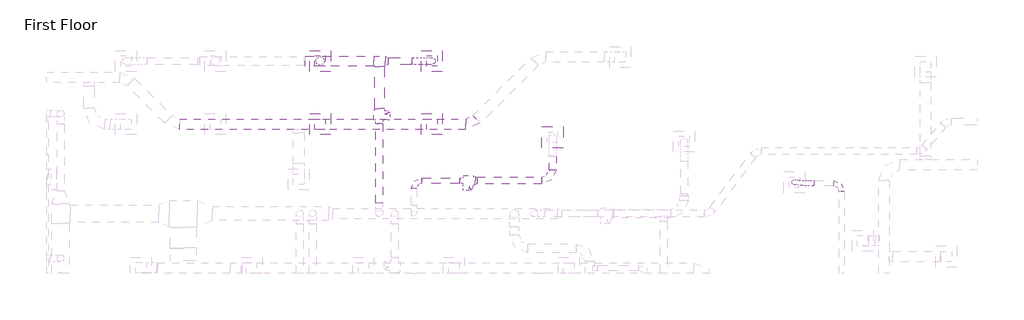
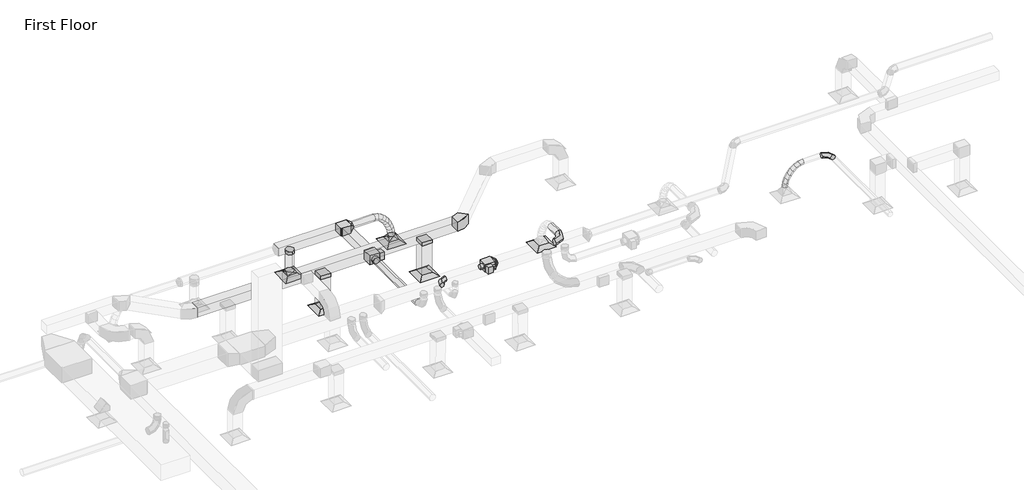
# One storey, part 25 of 61: 13 duct segments, 12 duct fittings, 5 air terminals, 2 proxies.
"""IFC4 building model written with IfcOpenShell, lengths in millimetres."""

from ifc_helpers import new_model, si_unit, point, frame, frame_2d, origin, place, context, project, spatial, polyline, circle_curve, ellipse_curve, trimmed, segment, composite_curve, outline, extrude, transform, mapped, element, save
from ifc_brep_helpers import plane_surface, cylinder_surface, advanced_brep
from components import m_exhaust_grill_er_600_x_600_face_300_x_300_connection_ff221211, m_vav_unit_single_duct_150_mm_ffdab17b, m_vav_unit_single_duct_200_mm_f9143229, m_rectangular_elbow_radius_1_5_w_5bed5c13, m_rectangular_takeoff_standard_c00386d1, m_rectangular_tee_standard_b73c3011, m_rectangular_to_round_transition_angle_45_degree_60daae35, m_rectangular_to_round_transition_angle_45_degree_1b7ae117, m_rectangular_to_round_transition_angle_45_degree_c30f01b8, m_rectangular_to_round_transition_angle_45_degree_fab4045a, m_round_elbow_1_5_d_2e586196, m_round_elbow_1_5_d_b7bc3624, m_round_takeoff_standard_3c6c0435

model = new_model("IFC4")

# Units and contexts
model_context = context("Model", 3, world=origin())
ifc_project = project(units=[si_unit("LENGTHUNIT", "METRE", prefix="MILLI")], contexts=[model_context])

# Site, building, storey
site = spatial("IfcSite", under=ifc_project)
building = spatial("IfcBuilding", under=site)
storey = spatial("IfcBuildingStorey", under=building, Name="First Floor", Elevation=0.0)

# Air terminals
placement = place(None, origin())
m_exhaust_grill_er_600_x_600_face_300_x_300_connection_shape = m_exhaust_grill_er_600_x_600_face_300_x_300_connection_ff221211(model_context)
element("IfcAirTerminal", 1, ObjectType="M_Return Register : RR-600 x 600 Face 300 x 300 Connection", at=placement, inside=storey, context=model_context, shape_type="MappedRepresentation", body=[
    mapped(m_exhaust_grill_er_600_x_600_face_300_x_300_connection_shape, transform((-31691.200277, 25626.8949438, 2680.0), x_axis=(1.0, 0.0, 0.0), y_axis=(0.0, 1.0, 0.0), z_axis=(0.0, 0.0, 1.0))),
])
element("IfcAirTerminal", 2, ObjectType="M_Return Register : RR-600 x 600 Face 300 x 300 Connection", at=placement, inside=storey, context=model_context, shape_type="MappedRepresentation", body=[
    mapped(m_exhaust_grill_er_600_x_600_face_300_x_300_connection_shape, transform((-28520.4493854, 25626.8949438, 2680.0), x_axis=(1.0, 0.0, 0.0), y_axis=(0.0, 1.0, 0.0), z_axis=(0.0, 0.0, 1.0))),
])
element("IfcAirTerminal", 3, ObjectType="M_Supply Diffuser : SD-600 x 600 Face 300 x 300 Connection", at=placement, inside=storey, context=model_context, shape_type="MappedRepresentation", body=[
    mapped(m_exhaust_grill_er_600_x_600_face_300_x_300_connection_shape, transform((-31691.200277, 27420.2137368, 2680.0), x_axis=(1.0, 0.0, 0.0), y_axis=(0.0, 1.0, 0.0), z_axis=(0.0, 0.0, 1.0))),
])
element("IfcAirTerminal", 4, ObjectType="M_Supply Diffuser : SD-600 x 600 Face 300 x 300 Connection", at=placement, inside=storey, context=model_context, shape_type="MappedRepresentation", body=[
    mapped(m_exhaust_grill_er_600_x_600_face_300_x_300_connection_shape, transform((-28520.4493854, 27420.2137368, 2680.0), x_axis=(1.0, 0.0, 0.0), y_axis=(0.0, 1.0, 0.0), z_axis=(0.0, 0.0, 1.0))),
])
element("IfcAirTerminal", 5, ObjectType="M_Supply Diffuser : SD-600 x 600 Face 300 x 300 Connection", at=placement, inside=storey, context=model_context, shape_type="MappedRepresentation", body=[
    mapped(m_exhaust_grill_er_600_x_600_face_300_x_300_connection_shape, transform((-25088.7510088, 25251.4077861, 2680.0), x_axis=(1.0, 0.0, 0.0), y_axis=(0.0, 1.0, 0.0), z_axis=(0.0, 0.0, 1.0))),
])

# Proxies
m_vav_unit_single_duct_150_mm_shape = m_vav_unit_single_duct_150_mm_ffdab17b(model_context)
element("IfcBuildingElementProxy", 6, Name="M_VAV Unit - Single Duct : 150 mm", ObjectType="M_VAV Unit - Single Duct : 150 mm", at=placement, inside=storey, context=model_context, shape_type="MappedRepresentation", body=[
    mapped(m_vav_unit_single_duct_150_mm_shape, transform((-27627.0643484, 24016.391812, 3500.0), x_axis=(1.0, 0.0, 0.0), y_axis=(0.0, 1.0, 0.0), z_axis=(0.0, 0.0, 1.0))),
])
m_vav_unit_single_duct_200_mm_shape = m_vav_unit_single_duct_200_mm_f9143229(model_context)
element("IfcBuildingElementProxy", 7, Name="M_VAV Unit - Single Duct : 200 mm", ObjectType="M_VAV Unit - Single Duct : 200 mm", at=placement, inside=storey, context=model_context, shape_type="MappedRepresentation", body=[
    mapped(m_vav_unit_single_duct_200_mm_shape, transform((-30010.5691748, 25744.7092186, 3500.05), x_axis=(0.0, 1.0000000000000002, 0.0), y_axis=(-1.0000000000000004, 0.0, 0.0), z_axis=(0.0, 0.0, 1.0000000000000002))),
])

# Duct fittings
m_rectangular_elbow_radius_1_5_w_shape = m_rectangular_elbow_radius_1_5_w_5bed5c13(model_context)
element("IfcDuctFitting", 8, ObjectType="M_Rectangular Elbow - Radius : 1.5 W", at=placement, inside=storey, context=model_context, shape_type="MappedRepresentation", body=[
    mapped(m_rectangular_elbow_radius_1_5_w_shape, transform((-27375.1238283, 25626.8949438, 4000.0), x_axis=(1.0, 0.0, 0.0), y_axis=(0.0, 1.0, 0.0), z_axis=(0.0, 0.0, 1.0))),
])
m_rectangular_takeoff_standard_shape = m_rectangular_takeoff_standard_c00386d1(model_context)
element("IfcDuctFitting", 9, ObjectType="M_Rectangular Takeoff : Standard", at=placement, inside=storey, context=model_context, shape_type="MappedRepresentation", body=[
    mapped(m_rectangular_takeoff_standard_shape, transform((-31691.200277, 25626.8949438, 3850.0), x_axis=(0.0, 0.0, -1.0), y_axis=(0.0, 1.0, 0.0), z_axis=(1.0, 0.0, 0.0))),
])
element("IfcDuctFitting", 10, ObjectType="M_Rectangular Takeoff : Standard", at=placement, inside=storey, context=model_context, shape_type="MappedRepresentation", body=[
    mapped(m_rectangular_takeoff_standard_shape, transform((-28520.4493854, 25626.8949438, 3850.0), x_axis=(0.0, 0.0, -1.0), y_axis=(0.0, 1.0, 0.0), z_axis=(1.0, 0.0, 0.0))),
])
m_rectangular_tee_standard_shape = m_rectangular_tee_standard_b73c3011(model_context)
element("IfcDuctFitting", 11, ObjectType="M_Rectangular Tee : Standard", at=placement, inside=storey, context=model_context, shape_type="MappedRepresentation", body=[
    mapped(m_rectangular_tee_standard_shape, transform((-30010.5691748, 27420.2137368, 3644.1), x_axis=(1.0, 0.0, 0.0), y_axis=(0.0, 1.0, 0.0), z_axis=(0.0, 0.0, 1.0))),
])
m_rectangular_to_round_transition_angle_45_degree_shape = m_rectangular_to_round_transition_angle_45_degree_60daae35(model_context)
element("IfcDuctFitting", 12, ObjectType="M_Rectangular to Round Transition - Angle : 45 Degree", at=placement, inside=storey, context=model_context, shape_type="MappedRepresentation", body=[
    mapped(m_rectangular_to_round_transition_angle_45_degree_shape, transform((-28520.4493854, 27420.2137368, 2781.6), x_axis=(0.0, 0.0, 1.0), y_axis=(1.0, 0.0, 0.0), z_axis=(0.0, 1.0, 0.0))),
])
m_rectangular_to_round_transition_angle_45_degree_2_shape = m_rectangular_to_round_transition_angle_45_degree_1b7ae117(model_context)
element("IfcDuctFitting", 13, ObjectType="M_Rectangular to Round Transition - Angle : 45 Degree", at=placement, inside=storey, context=model_context, shape_type="MappedRepresentation", body=[
    mapped(m_rectangular_to_round_transition_angle_45_degree_2_shape, transform((-27284.2643484, 24016.391812, 3619.05), x_axis=(1.0, 0.0, 0.0), y_axis=(0.0, 1.0, 0.0), z_axis=(0.0, 0.0, 1.0))),
])
m_rectangular_to_round_transition_angle_45_degree_3_shape = m_rectangular_to_round_transition_angle_45_degree_c30f01b8(model_context)
element("IfcDuctFitting", 14, ObjectType="M_Rectangular to Round Transition - Angle : 45 Degree", at=placement, inside=storey, context=model_context, shape_type="MappedRepresentation", body=[
    mapped(m_rectangular_to_round_transition_angle_45_degree_3_shape, transform((-31691.200277, 27420.2137368, 2781.6), x_axis=(0.0, 0.0, 1.0), y_axis=(0.0, -1.0, 0.0), z_axis=(1.0, 0.0, 0.0))),
])
m_rectangular_to_round_transition_angle_45_degree_4_shape = m_rectangular_to_round_transition_angle_45_degree_fab4045a(model_context)
element("IfcDuctFitting", 15, ObjectType="M_Rectangular to Round Transition - Angle : 45 Degree", at=placement, inside=storey, context=model_context, shape_type="MappedRepresentation", body=[
    mapped(m_rectangular_to_round_transition_angle_45_degree_4_shape, transform((-29848.0691748, 27420.2137368, 3644.1), x_axis=(1.0, 0.0, 0.0), y_axis=(0.0, 1.0, 0.0), z_axis=(0.0, 0.0, 1.0))),
])
m_round_elbow_1_5_d_shape = m_round_elbow_1_5_d_2e586196(model_context)
element("IfcDuctFitting", 16, ObjectType="M_Round Elbow : 1.5 D", at=placement, inside=storey, context=model_context, shape_type="MappedRepresentation", body=[
    mapped(m_round_elbow_1_5_d_shape, transform((-16867.9125198, 23941.391812, 3619.1), x_axis=(0.0, 1.0, 0.0), y_axis=(-1.0, 0.0, 0.0), z_axis=(0.0, 0.0, 1.0))),
])
element("IfcDuctFitting", 17, ObjectType="M_Round Elbow : 1.5 D", at=placement, inside=storey, context=model_context, shape_type="MappedRepresentation", body=[
    mapped(m_round_elbow_1_5_d_shape, transform((-29028.6643484, 24017.241812, 3609.5), x_axis=(-0.9999999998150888, 0.0, -1.923076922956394e-05), y_axis=(0.0, -1.0, 0.0), z_axis=(-1.923076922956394e-05, 0.0, 0.9999999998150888))),
])
m_round_elbow_1_5_d_2_shape = m_round_elbow_1_5_d_b7bc3624(model_context)
element("IfcDuctFitting", 18, ObjectType="M_Round Elbow : 1.5 D", at=placement, inside=storey, context=model_context, shape_type="MappedRepresentation", body=[
    mapped(m_round_elbow_1_5_d_2_shape, transform((-25088.7510088, 24016.391812, 3619.1), x_axis=(1.0, 0.0, 0.0), y_axis=(0.0, 1.0, 0.0), z_axis=(0.0, 0.0, 1.0))),
])
m_round_takeoff_standard_shape = m_round_takeoff_standard_3c6c0435(model_context)
element("IfcDuctFitting", 19, ObjectType="M_Round Takeoff : Standard", at=placement, inside=storey, context=model_context, shape_type="MappedRepresentation", body=[
    mapped(m_round_takeoff_standard_shape, transform((-31691.200277, 27420.2137368, 3519.1), x_axis=(0.0, 0.0, -1.0), y_axis=(0.0, 1.0, 0.0), z_axis=(1.0, 0.0, 0.0))),
])

# Duct segments
element("IfcDuctSegment", 20, ObjectType="Flex - Round", at=placement, inside=storey, context=model_context, shape_type="AdvancedBrep", body=[
    advanced_brep(
    [(-17669.0618998, 23866.4006196, 3619.1), (-17654.7669014, 23941.1903308, 3545.2613101), (-17666.7631397, 24016.3830043, 3619.1), (-17681.0581382, 23941.5932931, 3692.9386899), (-17790.1013636, 23868.2557754, 3597.5460912), (-17763.64079, 23942.8590265, 3525.8737667), (-17786.0185237, 24018.2108157, 3597.8637884), (-17812.4790973, 23943.6075647, 3669.5361129), (-18219.5903426, 23899.7385225, 2962.0459449), (-18290.0565527, 23978.4132131, 2971.7827969), (-18211.8269291, 24049.5323523, 2963.2860895), (-18141.360719, 23970.8576616, 2953.5492375), (-17904.5689173, 23873.0588916, 3538.0236843), (-17858.8648535, 23946.8546761, 3476.3578534), (-17897.9109492, 24022.9058782, 3539.6804319), (-17943.6150129, 23949.1100938, 3601.3462628), (-18007.2018094, 23879.5918853, 3449.1764013), (-17948.8744106, 23952.5841441, 3398.4383442), (-17999.3077544, 24029.3601901, 3451.9032051), (-18057.6351532, 23956.3679313, 3502.6412623), (-18094.0572428, 23886.6836696, 3339.1455079), (-18027.1913887, 23958.9787597, 3299.2242049), (-18085.7563234, 24036.4187537, 3342.3877389), (-18152.6221775, 23964.1236635, 3382.3090419), (-18161.1039365, 23893.1729908, 3215.9920559), (-18088.1155369, 23964.8754914, 3187.3168347), (-18152.8925239, 24042.916738, 3219.0698779), (-18225.8809235, 23971.2142374, 3247.745099), (-18204.2615617, 23897.9028395, 3087.8137884), (-18126.9129969, 23969.127489, 3072.0882702), (-18196.4012716, 24047.685068, 3089.8487758), (-18273.7498364, 23976.4604185, 3105.5742939)],
    [
        (0, 1, circle_curve(frame((-17667.9125198, 23941.391812, 3619.1), z_axis=(0.9844002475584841, -0.015087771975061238, 0.1752954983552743), x_axis=(-0.015325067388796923, -0.9998825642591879, 0.0)), 75.0)),
        (1, 2, circle_curve(frame((-17667.9125198, 23941.391812, 3619.1), z_axis=(0.9844002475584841, -0.015087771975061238, 0.1752954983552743), x_axis=(-0.015325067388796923, -0.9998825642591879, 0.0)), 75.0)),
        (2, 3, circle_curve(frame((-17667.9125198, 23941.391812, 3619.1), z_axis=(0.9844002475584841, -0.015087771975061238, 0.1752954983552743), x_axis=(-0.015325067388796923, -0.9998825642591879, 0.0)), 75.0)),
        (3, 0, circle_curve(frame((-17667.9125198, 23941.391812, 3619.1), z_axis=(0.9844002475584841, -0.015087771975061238, 0.1752954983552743), x_axis=(-0.015325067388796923, -0.9998825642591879, 0.0)), 75.0)),
        (0, 4),
        (4, 5, ellipse_curve(frame((-17788.0599437, 23943.2332956, 3597.7049398), z_axis=(0.9464133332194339, -0.026450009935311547, 0.3218729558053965), x_axis=(0.32295463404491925, 0.07303025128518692, -0.9435925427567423)), 75.8747239, 75.0)),
        (5, 1),
        (5, 6, ellipse_curve(frame((-17788.0599437, 23943.2332956, 3597.7049398), z_axis=(0.9464133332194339, -0.026450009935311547, 0.3218729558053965), x_axis=(0.32295463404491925, 0.07303025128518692, -0.9435925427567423)), 75.8747239, 75.0)),
        (6, 2),
        (6, 7, ellipse_curve(frame((-17788.0599437, 23943.2332956, 3597.7049398), z_axis=(0.9464133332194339, -0.026450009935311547, 0.3218729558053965), x_axis=(0.32295463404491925, 0.07303025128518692, -0.9435925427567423)), 75.8747239, 75.0)),
        (7, 3),
        (7, 4, ellipse_curve(frame((-17788.0599437, 23943.2332956, 3597.7049398), z_axis=(0.9464133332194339, -0.026450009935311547, 0.3218729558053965), x_axis=(0.32295463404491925, 0.07303025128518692, -0.9435925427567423)), 75.8747239, 75.0)),
        (8, 9, circle_curve(frame((-18215.7086358, 23974.6354374, 2962.6660172), z_axis=(-0.12097354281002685, 0.014487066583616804, -0.99255001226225), x_axis=(-0.05175608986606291, -0.9986255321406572, -0.008267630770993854)), 75.0)),
        (9, 10, circle_curve(frame((-18215.7086358, 23974.6354374, 2962.6660172), z_axis=(-0.12097354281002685, 0.014487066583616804, -0.99255001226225), x_axis=(-0.05175608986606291, -0.9986255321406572, -0.008267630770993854)), 75.0)),
        (10, 11, circle_curve(frame((-18215.7086358, 23974.6354374, 2962.6660172), z_axis=(-0.12097354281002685, 0.014487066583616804, -0.99255001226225), x_axis=(-0.05175608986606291, -0.9986255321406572, -0.008267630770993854)), 75.0)),
        (11, 8, circle_curve(frame((-18215.7086358, 23974.6354374, 2962.6660172), z_axis=(-0.12097354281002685, 0.014487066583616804, -0.99255001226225), x_axis=(-0.05175608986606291, -0.9986255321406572, -0.008267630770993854)), 75.0)),
        (4, 12),
        (12, 13, ellipse_curve(frame((-17901.2399332, 23947.9823849, 3538.8520581), z_axis=(0.8265477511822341, -0.04293006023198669, 0.5612270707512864), x_axis=(0.5627896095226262, 0.04654089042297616, -0.8252889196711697)), 75.5165075, 75.0)),
        (13, 5),
        (13, 14, ellipse_curve(frame((-17901.2399332, 23947.9823849, 3538.8520581), z_axis=(0.8265477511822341, -0.04293006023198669, 0.5612270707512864), x_axis=(0.5627896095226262, 0.04654089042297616, -0.8252889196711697)), 75.5165075, 75.0)),
        (14, 6),
        (14, 15, ellipse_curve(frame((-17901.2399332, 23947.9823849, 3538.8520581), z_axis=(0.8265477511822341, -0.04293006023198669, 0.5612270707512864), x_axis=(0.5627896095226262, 0.04654089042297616, -0.8252889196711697)), 75.5165075, 75.0)),
        (15, 7),
        (15, 12, ellipse_curve(frame((-17901.2399332, 23947.9823849, 3538.8520581), z_axis=(0.8265477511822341, -0.04293006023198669, 0.5612270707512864), x_axis=(0.5627896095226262, 0.04654089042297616, -0.8252889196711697)), 75.5165075, 75.0)),
        (12, 16),
        (16, 17, ellipse_curve(frame((-18003.2547819, 23954.4760377, 3450.5398032), z_axis=(0.6900674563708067, -0.04951859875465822, 0.722049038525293), x_axis=(0.7233205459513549, 0.013021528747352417, -0.6903896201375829)), 75.3355178, 75.0)),
        (17, 13),
        (17, 18, ellipse_curve(frame((-18003.2547819, 23954.4760377, 3450.5398032), z_axis=(0.6900674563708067, -0.04951859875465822, 0.722049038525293), x_axis=(0.7233205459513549, 0.013021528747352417, -0.6903896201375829)), 75.3355178, 75.0)),
        (18, 14),
        (18, 19, ellipse_curve(frame((-18003.2547819, 23954.4760377, 3450.5398032), z_axis=(0.6900674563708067, -0.04951859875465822, 0.722049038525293), x_axis=(0.7233205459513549, 0.013021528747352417, -0.6903896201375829)), 75.3355178, 75.0)),
        (19, 15),
        (19, 16, ellipse_curve(frame((-18003.2547819, 23954.4760377, 3450.5398032), z_axis=(0.6900674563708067, -0.04951859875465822, 0.722049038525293), x_axis=(0.7233205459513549, 0.013021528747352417, -0.6903896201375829)), 75.3355178, 75.0)),
        (16, 20),
        (20, 21, ellipse_curve(frame((-18089.9067831, 23961.5512116, 3340.7666234), z_axis=(0.5501965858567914, -0.04855197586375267, 0.8336224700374), x_axis=(0.8336581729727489, -0.025370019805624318, -0.5516977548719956)), 75.2702725, 75.0)),
        (21, 17),
        (21, 22, ellipse_curve(frame((-18089.9067831, 23961.5512116, 3340.7666234), z_axis=(0.5501965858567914, -0.04855197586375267, 0.8336224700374), x_axis=(0.8336581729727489, -0.025370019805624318, -0.5516977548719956)), 75.2702725, 75.0)),
        (22, 18),
        (22, 23, ellipse_curve(frame((-18089.9067831, 23961.5512116, 3340.7666234), z_axis=(0.5501965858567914, -0.04855197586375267, 0.8336224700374), x_axis=(0.8336581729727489, -0.025370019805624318, -0.5516977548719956)), 75.2702725, 75.0)),
        (23, 19),
        (23, 20, ellipse_curve(frame((-18089.9067831, 23961.5512116, 3340.7666234), z_axis=(0.5501965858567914, -0.04855197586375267, 0.8336224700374), x_axis=(0.8336581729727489, -0.025370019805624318, -0.5516977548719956)), 75.2702725, 75.0)),
        (20, 24),
        (24, 25, ellipse_curve(frame((-18156.9982302, 23968.0448644, 3217.5309669), z_axis=(0.3997821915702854, -0.04074394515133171, 0.9157041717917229), x_axis=(0.9134701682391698, -0.06491038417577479, -0.401695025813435)), 75.2847041, 75.0)),
        (25, 21),
        (25, 26, ellipse_curve(frame((-18156.9982302, 23968.0448644, 3217.5309669), z_axis=(0.3997821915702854, -0.04074394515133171, 0.9157041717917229), x_axis=(0.9134701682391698, -0.06491038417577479, -0.401695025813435)), 75.2847041, 75.0)),
        (26, 22),
        (26, 27, ellipse_curve(frame((-18156.9982302, 23968.0448644, 3217.5309669), z_axis=(0.3997821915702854, -0.04074394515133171, 0.9157041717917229), x_axis=(0.9134701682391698, -0.06491038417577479, -0.401695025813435)), 75.2847041, 75.0)),
        (27, 23),
        (27, 24, ellipse_curve(frame((-18156.9982302, 23968.0448644, 3217.5309669), z_axis=(0.3997821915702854, -0.04074394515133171, 0.9157041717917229), x_axis=(0.9134701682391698, -0.06491038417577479, -0.401695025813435)), 75.2847041, 75.0)),
        (24, 28),
        (28, 29, ellipse_curve(frame((-18200.3314166, 23972.7939538, 3088.8312821), z_axis=(0.22109252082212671, -0.024848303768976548, 0.9749362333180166), x_axis=(0.9697692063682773, -0.1002600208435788, -0.2224760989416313)), 75.3936078, 75.0)),
        (29, 25),
        (29, 30, ellipse_curve(frame((-18200.3314166, 23972.7939538, 3088.8312821), z_axis=(0.22109252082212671, -0.024848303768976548, 0.9749362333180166), x_axis=(0.9697692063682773, -0.1002600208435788, -0.2224760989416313)), 75.3936078, 75.0)),
        (30, 26),
        (30, 31, ellipse_curve(frame((-18200.3314166, 23972.7939538, 3088.8312821), z_axis=(0.22109252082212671, -0.024848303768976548, 0.9749362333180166), x_axis=(0.9697692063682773, -0.1002600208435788, -0.2224760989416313)), 75.3936078, 75.0)),
        (31, 27),
        (31, 28, ellipse_curve(frame((-18200.3314166, 23972.7939538, 3088.8312821), z_axis=(0.22109252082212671, -0.024848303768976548, 0.9749362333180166), x_axis=(0.9697692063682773, -0.1002600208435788, -0.2224760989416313)), 75.3936078, 75.0)),
        (28, 8),
        (11, 29),
        (10, 30),
        (9, 31),
    ],
    [
        plane_surface(frame((-17667.9125198, 24016.1155411, 3625.5315091), z_axis=(0.9844002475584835, -0.015087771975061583, 0.1752954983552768), x_axis=(0.1759436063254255, 0.08441572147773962, -0.9807740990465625))),
        cylinder_surface(frame((-17667.9125198, 23941.391812, 3619.1), z_axis=(0.9844002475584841, -0.015087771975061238, 0.1752954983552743), x_axis=(-0.015325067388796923, -0.9998825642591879, 0.0)), 75.0),
        plane_surface(frame((-18215.7086358, 24049.6274497, 2963.760586), z_axis=(-0.12097354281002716, 0.014487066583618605, -0.9925500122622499), x_axis=(0.9926557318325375, 0.0017655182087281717, -0.12096065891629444))),
        cylinder_surface(frame((-17788.0599437, 23943.2332956, 3597.7049398), z_axis=(0.886604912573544, -0.0372023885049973, 0.46102897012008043), x_axis=(-0.03793120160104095, -0.9992507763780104, -0.007688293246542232)), 75.0),
        cylinder_surface(frame((-17901.2399332, 23947.9823849, 3538.8520581), z_axis=(0.755183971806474, -0.04807047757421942, 0.6537479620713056), x_axis=(-0.04988484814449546, -0.9986299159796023, -0.015804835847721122)), 75.0),
        cylinder_surface(frame((-18003.2547819, 23954.4760377, 3450.5398032), z_axis=(0.6188043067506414, -0.05052564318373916, 0.7839186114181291), x_axis=(-0.05487400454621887, -0.9982718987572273, -0.0210252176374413)), 75.0),
        cylinder_surface(frame((-18089.9067831, 23961.5512116, 3340.7666234), z_axis=(0.4776376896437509, -0.04622963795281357, 0.8773397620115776), x_axis=(-0.055698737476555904, -0.998199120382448, -0.022274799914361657)), 75.0),
        cylinder_surface(frame((-18156.9982302, 23968.0448644, 3217.5309669), z_axis=(0.3189029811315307, -0.03495008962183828, 0.9471427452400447), x_axis=(-0.05410446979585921, -0.9983616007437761, -0.018623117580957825)), 75.0),
        cylinder_surface(frame((-18200.3314166, 23972.7939538, 3088.8312821), z_axis=(0.12097354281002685, -0.014487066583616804, 0.99255001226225), x_axis=(-0.05175608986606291, -0.9986255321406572, -0.008267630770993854)), 75.0),
    ],
    [
        (0, [[1, 2, 3, 4]]),
        (1, [[-1, 5, 6, 7]]),
        (1, [[-2, -7, 8, 9]]),
        (1, [[-3, -9, 10, 11]]),
        (1, [[-4, -11, 12, -5]]),
        (2, [[13, 14, 15, 16]]),
        (3, [[-6, 17, 18, 19]]),
        (3, [[-8, -19, 20, 21]]),
        (3, [[-10, -21, 22, 23]]),
        (3, [[-12, -23, 24, -17]]),
        (4, [[-18, 25, 26, 27]]),
        (4, [[-20, -27, 28, 29]]),
        (4, [[-22, -29, 30, 31]]),
        (4, [[-24, -31, 32, -25]]),
        (5, [[-26, 33, 34, 35]]),
        (5, [[-28, -35, 36, 37]]),
        (5, [[-30, -37, 38, 39]]),
        (5, [[-32, -39, 40, -33]]),
        (6, [[-34, 41, 42, 43]]),
        (6, [[-36, -43, 44, 45]]),
        (6, [[-38, -45, 46, 47]]),
        (6, [[-40, -47, 48, -41]]),
        (7, [[-42, 49, 50, 51]]),
        (7, [[-44, -51, 52, 53]]),
        (7, [[-46, -53, 54, 55]]),
        (7, [[-48, -55, 56, -49]]),
        (8, [[-50, 57, -16, 58]]),
        (8, [[-52, -58, -15, 59]]),
        (8, [[-54, -59, -14, 60]]),
        (8, [[-56, -60, -13, -57]]),
    ],
),
])
element("IfcDuctSegment", 21, ObjectType="Flex - Round", at=placement, inside=storey, context=model_context, shape_type="AdvancedBrep", body=[
    advanced_brep(
    [(-29069.4400538, 27520.2137368, 3644.1), (-29086.3983877, 27420.2137368, 3545.548415), (-29069.4400538, 27320.2137368, 3644.1), (-29052.4817199, 27420.2137368, 3742.651585), (-28957.5314991, 27520.2137368, 3624.8432561), (-28989.6495454, 27420.2137368, 3528.9002893), (-28957.5314991, 27320.2137368, 3624.8432561), (-28925.4134529, 27420.2137368, 3720.7862228), (-28520.4493854, 27520.2137368, 2902.3106781), (-28420.8634935, 27420.2137368, 2911.4018904), (-28520.4493854, 27320.2137368, 2902.3106781), (-28620.0352773, 27420.2137368, 2893.2194659), (-28853.8852403, 27520.2137368, 3571.453759), (-28910.3441585, 27420.2137368, 3488.0490828), (-28853.8852403, 27320.2137368, 3571.453759), (-28797.4263221, 27420.2137368, 3654.8584352), (-28760.553661, 27520.2137368, 3490.5026109), (-28833.0880104, 27420.2137368, 3421.0409604), (-28760.553661, 27320.2137368, 3490.5026109), (-28688.0193116, 27420.2137368, 3559.9642613), (-28679.5891449, 27520.2137368, 3388.5609138), (-28762.6232256, 27420.2137368, 3332.3193811), (-28679.5891449, 27320.2137368, 3388.5609138), (-28596.5550641, 27420.2137368, 3444.8024465), (-28613.0440756, 27520.2137368, 3272.1997699), (-28703.2393968, 27420.2137368, 3228.4804291), (-28613.0440756, 27320.2137368, 3272.1997699), (-28522.8487544, 27420.2137368, 3315.9191107), (-28562.9708368, 27520.2137368, 3147.9902813), (-28658.28118, 27420.2137368, 3116.9590405), (-28562.9708368, 27320.2137368, 3147.9902813), (-28467.6604936, 27420.2137368, 3179.021522), (-28531.4218122, 27520.2137368, 3022.50355), (-28630.3004841, 27420.2137368, 3005.6653917), (-28531.4218122, 27320.2137368, 3022.50355), (-28432.5431403, 27420.2137368, 3039.3417082)],
    [
        (0, 1, circle_curve(frame((-29069.4400538, 27420.2137368, 3644.1), z_axis=(-0.9855158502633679, 0.0, 0.16958333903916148), x_axis=(0.0, 1.0, 0.0)), 100.0)),
        (1, 2, circle_curve(frame((-29069.4400538, 27420.2137368, 3644.1), z_axis=(-0.9855158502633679, 0.0, 0.16958333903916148), x_axis=(0.0, 1.0, 0.0)), 100.0)),
        (2, 3, circle_curve(frame((-29069.4400538, 27420.2137368, 3644.1), z_axis=(-0.9855158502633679, 0.0, 0.16958333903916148), x_axis=(0.0, 1.0, 0.0)), 100.0)),
        (3, 0, circle_curve(frame((-29069.4400538, 27420.2137368, 3644.1), z_axis=(-0.9855158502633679, 0.0, 0.16958333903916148), x_axis=(0.0, 1.0, 0.0)), 100.0)),
        (0, 4),
        (4, 5, ellipse_curve(frame((-28957.5314991, 27420.2137368, 3624.8432561), z_axis=(-0.948276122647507, 0.0, 0.31744668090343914), x_axis=(-0.31744668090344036, 0.0, -0.9482761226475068)), 101.1761917, 100.0)),
        (5, 1),
        (5, 6, ellipse_curve(frame((-28957.5314991, 27420.2137368, 3624.8432561), z_axis=(-0.948276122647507, 0.0, 0.31744668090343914), x_axis=(-0.31744668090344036, 0.0, -0.9482761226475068)), 101.1761917, 100.0)),
        (6, 2),
        (6, 7, ellipse_curve(frame((-28957.5314991, 27420.2137368, 3624.8432561), z_axis=(-0.948276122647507, 0.0, 0.31744668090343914), x_axis=(-0.31744668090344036, 0.0, -0.9482761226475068)), 101.1761917, 100.0)),
        (7, 3),
        (7, 4, ellipse_curve(frame((-28957.5314991, 27420.2137368, 3624.8432561), z_axis=(-0.948276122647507, 0.0, 0.31744668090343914), x_axis=(-0.31744668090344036, 0.0, -0.9482761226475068)), 101.1761917, 100.0)),
        (8, 9, circle_curve(frame((-28520.4493854, 27420.2137368, 2902.3106781), z_axis=(0.09091212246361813, 0.0, -0.995858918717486), x_axis=(0.0, 1.0, 0.0)), 100.0)),
        (9, 10, circle_curve(frame((-28520.4493854, 27420.2137368, 2902.3106781), z_axis=(0.09091212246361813, 0.0, -0.995858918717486), x_axis=(0.0, 1.0, 0.0)), 100.0)),
        (10, 11, circle_curve(frame((-28520.4493854, 27420.2137368, 2902.3106781), z_axis=(0.09091212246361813, 0.0, -0.995858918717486), x_axis=(0.0, 1.0, 0.0)), 100.0)),
        (11, 8, circle_curve(frame((-28520.4493854, 27420.2137368, 2902.3106781), z_axis=(0.09091212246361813, 0.0, -0.995858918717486), x_axis=(0.0, 1.0, 0.0)), 100.0)),
        (4, 12),
        (12, 13, ellipse_curve(frame((-28853.8852403, 27420.2137368, 3571.453759), z_axis=(-0.8281077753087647, 0.0, 0.5605689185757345), x_axis=(-0.5605689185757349, 0.0, -0.8281077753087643)), 100.7171756, 100.0)),
        (13, 5),
        (13, 14, ellipse_curve(frame((-28853.8852403, 27420.2137368, 3571.453759), z_axis=(-0.8281077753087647, 0.0, 0.5605689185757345), x_axis=(-0.5605689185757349, 0.0, -0.8281077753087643)), 100.7171756, 100.0)),
        (14, 6),
        (14, 15, ellipse_curve(frame((-28853.8852403, 27420.2137368, 3571.453759), z_axis=(-0.8281077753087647, 0.0, 0.5605689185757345), x_axis=(-0.5605689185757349, 0.0, -0.8281077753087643)), 100.7171756, 100.0)),
        (15, 7),
        (15, 12, ellipse_curve(frame((-28853.8852403, 27420.2137368, 3571.453759), z_axis=(-0.8281077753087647, 0.0, 0.5605689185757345), x_axis=(-0.5605689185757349, 0.0, -0.8281077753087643)), 100.7171756, 100.0)),
        (12, 16),
        (16, 17, ellipse_curve(frame((-28760.553661, 27420.2137368, 3490.5026109), z_axis=(-0.6916435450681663, 0.0, 0.7222390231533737), x_axis=(-0.7222390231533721, 0.0, -0.6916435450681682)), 100.4298398, 100.0)),
        (17, 13),
        (17, 18, ellipse_curve(frame((-28760.553661, 27420.2137368, 3490.5026109), z_axis=(-0.6916435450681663, 0.0, 0.7222390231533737), x_axis=(-0.7222390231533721, 0.0, -0.6916435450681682)), 100.4298398, 100.0)),
        (18, 14),
        (18, 19, ellipse_curve(frame((-28760.553661, 27420.2137368, 3490.5026109), z_axis=(-0.6916435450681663, 0.0, 0.7222390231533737), x_axis=(-0.7222390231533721, 0.0, -0.6916435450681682)), 100.4298398, 100.0)),
        (19, 15),
        (19, 16, ellipse_curve(frame((-28760.553661, 27420.2137368, 3490.5026109), z_axis=(-0.6916435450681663, 0.0, 0.7222390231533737), x_axis=(-0.7222390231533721, 0.0, -0.6916435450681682)), 100.4298398, 100.0)),
        (16, 20),
        (20, 21, ellipse_curve(frame((-28679.5891449, 27420.2137368, 3388.5609138), z_axis=(-0.5607978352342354, 0.0, 0.8279527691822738), x_axis=(-0.8279527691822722, 0.0, -0.5607978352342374)), 100.2884269, 100.0)),
        (21, 17),
        (21, 22, ellipse_curve(frame((-28679.5891449, 27420.2137368, 3388.5609138), z_axis=(-0.5607978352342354, 0.0, 0.8279527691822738), x_axis=(-0.8279527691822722, 0.0, -0.5607978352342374)), 100.2884269, 100.0)),
        (22, 18),
        (22, 23, ellipse_curve(frame((-28679.5891449, 27420.2137368, 3388.5609138), z_axis=(-0.5607978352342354, 0.0, 0.8279527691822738), x_axis=(-0.8279527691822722, 0.0, -0.5607978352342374)), 100.2884269, 100.0)),
        (23, 19),
        (23, 20, ellipse_curve(frame((-28679.5891449, 27420.2137368, 3388.5609138), z_axis=(-0.5607978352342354, 0.0, 0.8279527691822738), x_axis=(-0.8279527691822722, 0.0, -0.5607978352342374)), 100.2884269, 100.0)),
        (20, 24),
        (24, 25, ellipse_curve(frame((-28613.0440756, 27420.2137368, 3272.1997699), z_axis=(-0.4361787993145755, 0.0, 0.8998600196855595), x_axis=(-0.8998600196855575, 0.0, -0.4361787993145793)), 100.2326131, 100.0)),
        (25, 21),
        (25, 26, ellipse_curve(frame((-28613.0440756, 27420.2137368, 3272.1997699), z_axis=(-0.4361787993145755, 0.0, 0.8998600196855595), x_axis=(-0.8998600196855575, 0.0, -0.4361787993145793)), 100.2326131, 100.0)),
        (26, 22),
        (26, 27, ellipse_curve(frame((-28613.0440756, 27420.2137368, 3272.1997699), z_axis=(-0.4361787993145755, 0.0, 0.8998600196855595), x_axis=(-0.8998600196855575, 0.0, -0.4361787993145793)), 100.2326131, 100.0)),
        (27, 23),
        (27, 24, ellipse_curve(frame((-28613.0440756, 27420.2137368, 3272.1997699), z_axis=(-0.4361787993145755, 0.0, 0.8998600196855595), x_axis=(-0.8998600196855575, 0.0, -0.4361787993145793)), 100.2326131, 100.0)),
        (24, 28),
        (28, 29, ellipse_curve(frame((-28562.9708368, 27420.2137368, 3147.9902813), z_axis=(-0.309585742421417, 0.0, 0.9508715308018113), x_axis=(-0.9508715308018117, 0.0, -0.3095857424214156)), 100.2347216, 100.0)),
        (29, 25),
        (29, 30, ellipse_curve(frame((-28562.9708368, 27420.2137368, 3147.9902813), z_axis=(-0.309585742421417, 0.0, 0.9508715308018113), x_axis=(-0.9508715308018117, 0.0, -0.3095857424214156)), 100.2347216, 100.0)),
        (30, 26),
        (30, 31, ellipse_curve(frame((-28562.9708368, 27420.2137368, 3147.9902813), z_axis=(-0.309585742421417, 0.0, 0.9508715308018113), x_axis=(-0.9508715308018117, 0.0, -0.3095857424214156)), 100.2347216, 100.0)),
        (31, 27),
        (31, 28, ellipse_curve(frame((-28562.9708368, 27420.2137368, 3147.9902813), z_axis=(-0.309585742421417, 0.0, 0.9508715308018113), x_axis=(-0.9508715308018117, 0.0, -0.3095857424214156)), 100.2347216, 100.0)),
        (28, 32),
        (32, 33, ellipse_curve(frame((-28531.4218122, 27420.2137368, 3022.50355), z_axis=(-0.16787439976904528, 0.0, 0.9858083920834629), x_axis=(-0.9858083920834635, 0.0, -0.16787439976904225)), 100.3021203, 100.0)),
        (33, 29),
        (33, 34, ellipse_curve(frame((-28531.4218122, 27420.2137368, 3022.50355), z_axis=(-0.16787439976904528, 0.0, 0.9858083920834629), x_axis=(-0.9858083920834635, 0.0, -0.16787439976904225)), 100.3021203, 100.0)),
        (34, 30),
        (34, 35, ellipse_curve(frame((-28531.4218122, 27420.2137368, 3022.50355), z_axis=(-0.16787439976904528, 0.0, 0.9858083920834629), x_axis=(-0.9858083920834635, 0.0, -0.16787439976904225)), 100.3021203, 100.0)),
        (35, 31),
        (35, 32, ellipse_curve(frame((-28531.4218122, 27420.2137368, 3022.50355), z_axis=(-0.16787439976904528, 0.0, 0.9858083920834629), x_axis=(-0.9858083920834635, 0.0, -0.16787439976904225)), 100.3021203, 100.0)),
        (32, 8),
        (11, 33),
        (10, 34),
        (9, 35),
    ],
    [
        plane_surface(frame((-29069.4400538, 27520.2137368, 3644.1), z_axis=(-0.9855158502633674, 0.0, 0.16958333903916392), x_axis=(0.16958333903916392, 0.0, 0.9855158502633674))),
        cylinder_surface(frame((-29069.4400538, 27420.2137368, 3644.1), z_axis=(-0.9855158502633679, 0.0, 0.16958333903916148), x_axis=(0.0, 1.0, 0.0)), 100.0),
        plane_surface(frame((-28520.4493854, 27520.2137368, 2902.3106781), z_axis=(0.09091212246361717, 0.0, -0.995858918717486), x_axis=(0.995858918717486, 0.0, 0.09091212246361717))),
        cylinder_surface(frame((-28957.5314991, 27420.2137368, 3624.8432561), z_axis=(-0.8889886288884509, 0.0, 0.4579292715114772), x_axis=(0.0, 1.0, 0.0)), 100.0),
        cylinder_surface(frame((-28853.8852403, 27420.2137368, 3571.453759), z_axis=(-0.7554335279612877, 0.0, 0.6552252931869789), x_axis=(0.0, 1.0, 0.0)), 100.0),
        cylinder_surface(frame((-28760.553661, 27420.2137368, 3490.5026109), z_axis=(-0.6219330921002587, 0.0, 0.7830703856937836), x_axis=(0.0, 1.0, 0.0)), 100.0),
        cylinder_surface(frame((-28679.5891449, 27420.2137368, 3388.5609138), z_axis=(-0.49643689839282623, 0.0, 0.8680728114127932), x_axis=(0.0, 1.0, 0.0)), 100.0),
        cylinder_surface(frame((-28613.0440756, 27420.2137368, 3272.1997699), z_axis=(-0.37389619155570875, 0.0, 0.9274705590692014), x_axis=(0.0, 1.0, 0.0)), 100.0),
        cylinder_surface(frame((-28562.9708368, 27420.2137368, 3147.9902813), z_axis=(-0.24382536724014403, 0.0, 0.9698191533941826), x_axis=(0.0, 1.0, 0.0)), 100.0),
        cylinder_surface(frame((-28531.4218122, 27420.2137368, 3022.50355), z_axis=(-0.09091212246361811, 0.0, 0.9958589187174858), x_axis=(0.0, 1.0, 0.0)), 100.0),
    ],
    [
        (0, [[1, 2, 3, 4]]),
        (1, [[-1, 5, 6, 7]]),
        (1, [[-2, -7, 8, 9]]),
        (1, [[-3, -9, 10, 11]]),
        (1, [[-4, -11, 12, -5]]),
        (2, [[13, 14, 15, 16]]),
        (3, [[-6, 17, 18, 19]]),
        (3, [[-8, -19, 20, 21]]),
        (3, [[-10, -21, 22, 23]]),
        (3, [[-12, -23, 24, -17]]),
        (4, [[-18, 25, 26, 27]]),
        (4, [[-20, -27, 28, 29]]),
        (4, [[-22, -29, 30, 31]]),
        (4, [[-24, -31, 32, -25]]),
        (5, [[-26, 33, 34, 35]]),
        (5, [[-28, -35, 36, 37]]),
        (5, [[-30, -37, 38, 39]]),
        (5, [[-32, -39, 40, -33]]),
        (6, [[-34, 41, 42, 43]]),
        (6, [[-36, -43, 44, 45]]),
        (6, [[-38, -45, 46, 47]]),
        (6, [[-40, -47, 48, -41]]),
        (7, [[-42, 49, 50, 51]]),
        (7, [[-44, -51, 52, 53]]),
        (7, [[-46, -53, 54, 55]]),
        (7, [[-48, -55, 56, -49]]),
        (8, [[-50, 57, 58, 59]]),
        (8, [[-52, -59, 60, 61]]),
        (8, [[-54, -61, 62, 63]]),
        (8, [[-56, -63, 64, -57]]),
        (9, [[-58, 65, -16, 66]]),
        (9, [[-60, -66, -15, 67]]),
        (9, [[-62, -67, -14, 68]]),
        (9, [[-64, -68, -13, -65]]),
    ],
),
])
element("IfcDuctSegment", 22, ObjectType="Mitered Elbows / Taps", at=placement, inside=storey, context=model_context, shape_type="SweptSolid", body=[
    extrude(outline(polyline([(-29873.0691748, 26074.5092186), (-30148.0691748, 26074.5092186), (-30148.0691748, 27257.7137368), (-29873.0691748, 27257.7137368), (-29873.0691748, 26074.5092186)])), frame((0.0, 0.0, 3519.1), z_axis=(0.0, 0.0, 1.0), x_axis=(1.0, 0.0, 0.0)), (0.0, 0.0, 1.0), 250.0),
])
element("IfcDuctSegment", 23, ObjectType="Mitered Elbows / Taps", at=placement, inside=storey, context=model_context, shape_type="SweptSolid", body=[
    extrude(outline(polyline([(-30173.0691748, 27557.7137368), (-30173.0691748, 27282.7137368), (-32114.4400538, 27282.7137368), (-32114.4400538, 27557.7137368), (-30173.0691748, 27557.7137368)])), frame((0.0, 0.0, 3519.1), z_axis=(0.0, 0.0, 1.0), x_axis=(1.0, 0.0, 0.0)), (0.0, 0.0, 1.0), 250.0),
])
element("IfcDuctSegment", 24, ObjectType="Radius Elbows / Taps", at=placement, inside=storey, context=model_context, shape_type="SweptSolid", body=[
    extrude(outline(polyline([(-27561.5199313, 25776.8949438), (-27561.5199313, 25476.8949438), (-35688.7277252, 25476.8949438), (-35688.7277252, 25776.8949438), (-27561.5199313, 25776.8949438)])), frame((0.0, 0.0, 3850.0), z_axis=(0.0, 0.0, 1.0), x_axis=(1.0, 0.0, 0.0)), (0.0, 0.0, 1.0), 300.0),
])
element("IfcDuctSegment", 25, ObjectType="Radius Elbows / Taps", at=placement, inside=storey, context=model_context, shape_type="SweptSolid", body=[
    extrude(outline(polyline([(-31841.200277, 25476.8949438), (-31841.200277, 25776.8949438), (-31541.200277, 25776.8949438), (-31541.200277, 25476.8949438), (-31841.200277, 25476.8949438)])), frame((0.0, 0.0, 2781.6), z_axis=(0.0, 0.0, 1.0), x_axis=(1.0, 0.0, 0.0)), (0.0, 0.0, 1.0), 968.4),
])
element("IfcDuctSegment", 26, ObjectType="Radius Elbows / Taps", at=placement, inside=storey, context=model_context, shape_type="SweptSolid", body=[
    extrude(outline(polyline([(-28670.4493854, 25476.8949438), (-28670.4493854, 25776.8949438), (-28370.4493854, 25776.8949438), (-28370.4493854, 25476.8949438), (-28670.4493854, 25476.8949438)])), frame((0.0, 0.0, 2781.6), z_axis=(0.0, 0.0, 1.0), x_axis=(1.0, 0.0, 0.0)), (0.0, 0.0, 1.0), 968.4),
])
element("IfcDuctSegment", 27, ObjectType="Taps", at=placement, inside=storey, context=model_context, shape_type="SweptSolid", body=[
    extrude(outline(composite_curve([segment(trimmed(circle_curve(frame_2d((27420.2137368, 3644.1)), 100.0), [point((27320.2137368, 3644.1))], [point((27420.2137368, 3744.1))], False, "CARTESIAN"), True, "CONTINUOUS"), segment(trimmed(circle_curve(frame_2d((27420.2137368, 3644.1)), 100.0), [point((27420.2137368, 3744.1))], [point((27520.2137368, 3644.1))], False, "CARTESIAN"), True, "CONTINUOUS"), segment(trimmed(circle_curve(frame_2d((27420.2137368, 3644.1)), 100.0), [point((27520.2137368, 3644.1))], [point((27420.2137368, 3544.1))], False, "CARTESIAN"), True, "CONTINUOUS"), segment(trimmed(circle_curve(frame_2d((27420.2137368, 3644.1)), 100.0), [point((27420.2137368, 3544.1))], [point((27320.2137368, 3644.1))], False, "CARTESIAN"), True, "CONTINUOUS")], self_intersect=False)), frame((-29757.5361662, 0.0, 0.0), z_axis=(1.0, 0.0, 0.0), x_axis=(0.0, 1.0, 0.0)), (0.0, 0.0, 1.0), 688.0961124),
])
element("IfcDuctSegment", 28, ObjectType="Taps", at=placement, inside=storey, context=model_context, shape_type="SweptSolid", body=[
    extrude(outline(composite_curve([segment(trimmed(circle_curve(frame_2d((-31691.200277, 27420.2137368)), 125.0), [point((-31691.200277, 27545.2137368))], [point((-31566.200277, 27420.2137368))], False, "CARTESIAN"), True, "CONTINUOUS"), segment(trimmed(circle_curve(frame_2d((-31691.200277, 27420.2137368)), 125.0), [point((-31566.200277, 27420.2137368))], [point((-31691.200277, 27295.2137368))], False, "CARTESIAN"), True, "CONTINUOUS"), segment(trimmed(circle_curve(frame_2d((-31691.200277, 27420.2137368)), 125.0), [point((-31691.200277, 27295.2137368))], [point((-31816.200277, 27420.2137368))], False, "CARTESIAN"), True, "CONTINUOUS"), segment(trimmed(circle_curve(frame_2d((-31691.200277, 27420.2137368)), 125.0), [point((-31816.200277, 27420.2137368))], [point((-31691.200277, 27545.2137368))], False, "CARTESIAN"), True, "CONTINUOUS")], self_intersect=False)), frame((0.0, 0.0, 2841.9553391), z_axis=(0.0, 0.0, 1.0), x_axis=(1.0, 0.0, 0.0)), (0.0, 0.0, 1.0), 577.1446609),
])
element("IfcDuctSegment", 29, ObjectType="Taps", at=placement, inside=storey, context=model_context, shape_type="SweptSolid", body=[
    extrude(outline(composite_curve([segment(trimmed(circle_curve(frame_2d((24016.391812, 3619.1)), 100.0), [point((23916.391812, 3619.1))], [point((24016.391812, 3719.1))], False, "CARTESIAN"), True, "CONTINUOUS"), segment(trimmed(circle_curve(frame_2d((24016.391812, 3619.1)), 100.0), [point((24016.391812, 3719.1))], [point((24116.391812, 3619.1))], False, "CARTESIAN"), True, "CONTINUOUS"), segment(trimmed(circle_curve(frame_2d((24016.391812, 3619.1)), 100.0), [point((24116.391812, 3619.1))], [point((24016.391812, 3519.1))], False, "CARTESIAN"), True, "CONTINUOUS"), segment(trimmed(circle_curve(frame_2d((24016.391812, 3619.1)), 100.0), [point((24016.391812, 3519.1))], [point((23916.391812, 3619.1))], False, "CARTESIAN"), True, "CONTINUOUS")], self_intersect=False)), frame((-27223.9090093, 0.0, 0.0), z_axis=(1.0, 0.0, 0.0), x_axis=(0.0, 1.0, 0.0)), (0.0, 0.0, 1.0), 1835.1580005),
])
element("IfcDuctSegment", 30, ObjectType="Taps", at=placement, inside=storey, context=model_context, shape_type="SweptSolid", body=[
    extrude(outline(composite_curve([segment(trimmed(circle_curve(frame_2d((3619.1, -25088.7510088)), 100.0), [point((3619.1, -24988.7510088))], [point((3719.1, -25088.7510088))], False, "CARTESIAN"), True, "CONTINUOUS"), segment(trimmed(circle_curve(frame_2d((3619.1, -25088.7510088)), 100.0), [point((3719.1, -25088.7510088))], [point((3619.1, -25188.7510088))], False, "CARTESIAN"), True, "CONTINUOUS"), segment(trimmed(circle_curve(frame_2d((3619.1, -25088.7510088)), 100.0), [point((3619.1, -25188.7510088))], [point((3519.1, -25088.7510088))], False, "CARTESIAN"), True, "CONTINUOUS"), segment(trimmed(circle_curve(frame_2d((3619.1, -25088.7510088)), 100.0), [point((3519.1, -25088.7510088))], [point((3619.1, -24988.7510088))], False, "CARTESIAN"), True, "CONTINUOUS")], self_intersect=False)), frame((0.0, 24316.391812, 0.0), z_axis=(0.0, 1.0, 0.0), x_axis=(0.0, 0.0, 1.0)), (0.0, 0.0, 1.0), 400.0),
])
element("IfcDuctSegment", 31, ObjectType="Taps", at=placement, inside=storey, context=model_context, shape_type="SweptSolid", body=[
    extrude(outline(composite_curve([segment(trimmed(circle_curve(frame_2d((0.0, 100.0)), 100.0), [point((0.0, 0.0))], [point((-100.0, 100.0))], False, "CARTESIAN"), True, "CONTINUOUS"), segment(trimmed(circle_curve(frame_2d((0.0, 100.0)), 100.0), [point((-100.0, 100.0))], [point((0.0, 200.0))], False, "CARTESIAN"), True, "CONTINUOUS"), segment(trimmed(circle_curve(frame_2d((0.0, 100.0)), 100.0), [point((0.0, 200.0))], [point((100.0, 100.0))], False, "CARTESIAN"), True, "CONTINUOUS"), segment(trimmed(circle_curve(frame_2d((0.0, 100.0)), 100.0), [point((100.0, 100.0))], [point((0.0, 0.0))], False, "CARTESIAN"), True, "CONTINUOUS")], self_intersect=False)), frame((-30111.2191748, 25643.1092186, 3634.575), z_axis=(0.0, -0.9999999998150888, 1.9230769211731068e-05), x_axis=(0.0, -1.9230769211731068e-05, -0.9999999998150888)), (0.0, 0.0, 1.0), 2262.6053301),
])
element("IfcDuctSegment", 32, ObjectType="Taps", at=placement, inside=storey, context=model_context, shape_type="SweptSolid", body=[
    extrude(outline(composite_curve([segment(trimmed(circle_curve(frame_2d((0.0, -75.0)), 75.0), [point((-75.0, -75.0))], [point((0.0, 0.0))], False, "CARTESIAN"), True, "CONTINUOUS"), segment(trimmed(circle_curve(frame_2d((0.0, -75.0)), 75.0), [point((0.0, 0.0))], [point((75.0, -75.0))], False, "CARTESIAN"), True, "CONTINUOUS"), segment(trimmed(circle_curve(frame_2d((0.0, -75.0)), 75.0), [point((75.0, -75.0))], [point((0.0, -150.0))], False, "CARTESIAN"), True, "CONTINUOUS"), segment(trimmed(circle_curve(frame_2d((0.0, -75.0)), 75.0), [point((0.0, -150.0))], [point((-75.0, -75.0))], False, "CARTESIAN"), True, "CONTINUOUS")], self_intersect=False)), frame((-28803.6629061, 24017.241812, 3534.5043269), z_axis=(0.9999999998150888, 0.0, 1.9230769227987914e-05), x_axis=(0.0, -1.0, 0.0)), (0.0, 0.0, 1.0), 1075.0000002),
])

save(model, "model.ifc")
